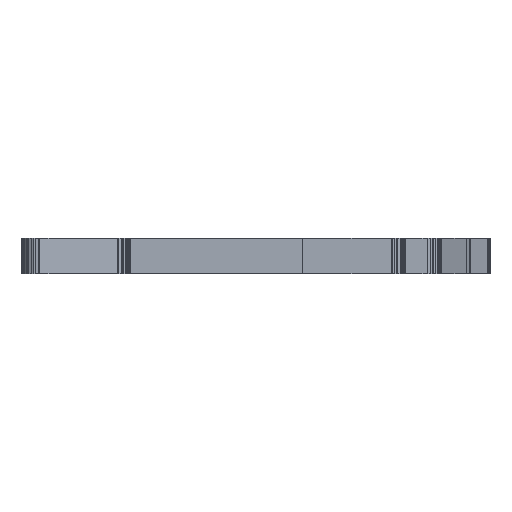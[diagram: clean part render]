
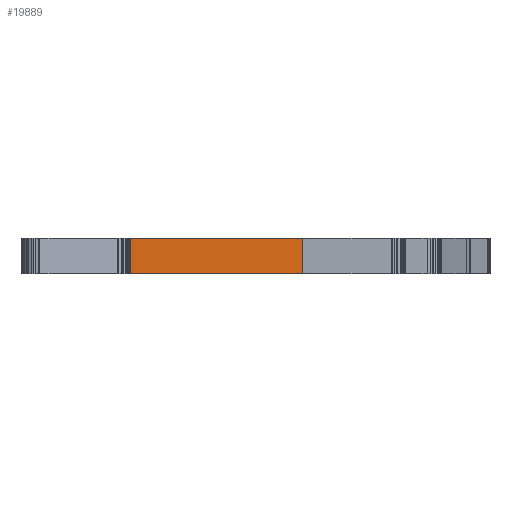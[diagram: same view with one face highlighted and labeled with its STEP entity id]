
A CAD part, left-side view. The second image highlights one B-rep face of the part: STEP entity #19889.
In plain terms, the highlighted planar face has unit normal (-1, 0, 0).
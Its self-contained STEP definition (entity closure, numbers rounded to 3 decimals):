
#72 = PLANE('',#73);
#73 = AXIS2_PLACEMENT_3D('',#74,#75,#76);
#74 = CARTESIAN_POINT('',(63.29,-47.96,3.5));
#75 = DIRECTION('',(0.,0.,1.));
#76 = DIRECTION('',(1.,0.,-0.));
#126 = PLANE('',#127);
#127 = AXIS2_PLACEMENT_3D('',#128,#129,#130);
#128 = CARTESIAN_POINT('',(63.29,-47.96,-6.6));
#129 = DIRECTION('',(0.,0.,1.));
#130 = DIRECTION('',(1.,0.,-0.));
#683 = VERTEX_POINT('',#684);
#684 = CARTESIAN_POINT('',(-4.07,-15.3,-6.6));
#698 = PLANE('',#699);
#699 = AXIS2_PLACEMENT_3D('',#700,#701,#702);
#700 = CARTESIAN_POINT('',(-6.772,-15.3,-6.6));
#701 = DIRECTION('',(0.,1.,0.));
#702 = DIRECTION('',(1.,0.,0.));
#710 = EDGE_CURVE('',#683,#711,#713,.T.);
#711 = VERTEX_POINT('',#712);
#712 = CARTESIAN_POINT('',(-4.07,-64.068,-6.6));
#713 = SURFACE_CURVE('',#714,(#718,#725),.PCURVE_S1.);
#714 = LINE('',#715,#716);
#715 = CARTESIAN_POINT('',(-4.07,-15.3,-6.6));
#716 = VECTOR('',#717,1.);
#717 = DIRECTION('',(0.,-1.,0.));
#718 = PCURVE('',#126,#719);
#719 = DEFINITIONAL_REPRESENTATION('',(#720),#724);
#720 = LINE('',#721,#722);
#721 = CARTESIAN_POINT('',(-67.36,32.66));
#722 = VECTOR('',#723,1.);
#723 = DIRECTION('',(0.,-1.));
#724 = ( GEOMETRIC_REPRESENTATION_CONTEXT(2) 
PARAMETRIC_REPRESENTATION_CONTEXT() REPRESENTATION_CONTEXT('2D SPACE',''
  ) );
#725 = PCURVE('',#726,#731);
#726 = PLANE('',#727);
#727 = AXIS2_PLACEMENT_3D('',#728,#729,#730);
#728 = CARTESIAN_POINT('',(-4.07,-15.3,-6.6));
#729 = DIRECTION('',(1.,0.,-0.));
#730 = DIRECTION('',(0.,-1.,0.));
#731 = DEFINITIONAL_REPRESENTATION('',(#732),#736);
#732 = LINE('',#733,#734);
#733 = CARTESIAN_POINT('',(0.,0.));
#734 = VECTOR('',#735,1.);
#735 = DIRECTION('',(1.,0.));
#736 = ( GEOMETRIC_REPRESENTATION_CONTEXT(2) 
PARAMETRIC_REPRESENTATION_CONTEXT() REPRESENTATION_CONTEXT('2D SPACE',''
  ) );
#754 = PLANE('',#755);
#755 = AXIS2_PLACEMENT_3D('',#756,#757,#758);
#756 = CARTESIAN_POINT('',(-4.07,-64.068,-6.6));
#757 = DIRECTION('',(0.707,-0.707,0.));
#758 = DIRECTION('',(-0.707,-0.707,0.));
#6448 = VERTEX_POINT('',#6449);
#6449 = CARTESIAN_POINT('',(-4.07,-15.3,3.5));
#6470 = EDGE_CURVE('',#6448,#6471,#6473,.T.);
#6471 = VERTEX_POINT('',#6472);
#6472 = CARTESIAN_POINT('',(-4.07,-64.068,3.5));
#6473 = SURFACE_CURVE('',#6474,(#6478,#6485),.PCURVE_S1.);
#6474 = LINE('',#6475,#6476);
#6475 = CARTESIAN_POINT('',(-4.07,-15.3,3.5));
#6476 = VECTOR('',#6477,1.);
#6477 = DIRECTION('',(0.,-1.,0.));
#6478 = PCURVE('',#72,#6479);
#6479 = DEFINITIONAL_REPRESENTATION('',(#6480),#6484);
#6480 = LINE('',#6481,#6482);
#6481 = CARTESIAN_POINT('',(-67.36,32.66));
#6482 = VECTOR('',#6483,1.);
#6483 = DIRECTION('',(0.,-1.));
#6484 = ( GEOMETRIC_REPRESENTATION_CONTEXT(2) 
PARAMETRIC_REPRESENTATION_CONTEXT() REPRESENTATION_CONTEXT('2D SPACE',''
  ) );
#6485 = PCURVE('',#726,#6486);
#6486 = DEFINITIONAL_REPRESENTATION('',(#6487),#6491);
#6487 = LINE('',#6488,#6489);
#6488 = CARTESIAN_POINT('',(0.,-10.1));
#6489 = VECTOR('',#6490,1.);
#6490 = DIRECTION('',(1.,0.));
#6491 = ( GEOMETRIC_REPRESENTATION_CONTEXT(2) 
PARAMETRIC_REPRESENTATION_CONTEXT() REPRESENTATION_CONTEXT('2D SPACE',''
  ) );
#19841 = EDGE_CURVE('',#683,#6448,#19842,.T.);
#19842 = SURFACE_CURVE('',#19843,(#19847,#19854),.PCURVE_S1.);
#19843 = LINE('',#19844,#19845);
#19844 = CARTESIAN_POINT('',(-4.07,-15.3,-6.6));
#19845 = VECTOR('',#19846,1.);
#19846 = DIRECTION('',(0.,0.,1.));
#19847 = PCURVE('',#698,#19848);
#19848 = DEFINITIONAL_REPRESENTATION('',(#19849),#19853);
#19849 = LINE('',#19850,#19851);
#19850 = CARTESIAN_POINT('',(2.702,0.));
#19851 = VECTOR('',#19852,1.);
#19852 = DIRECTION('',(0.,-1.));
#19853 = ( GEOMETRIC_REPRESENTATION_CONTEXT(2) 
PARAMETRIC_REPRESENTATION_CONTEXT() REPRESENTATION_CONTEXT('2D SPACE',''
  ) );
#19854 = PCURVE('',#726,#19855);
#19855 = DEFINITIONAL_REPRESENTATION('',(#19856),#19860);
#19856 = LINE('',#19857,#19858);
#19857 = CARTESIAN_POINT('',(0.,0.));
#19858 = VECTOR('',#19859,1.);
#19859 = DIRECTION('',(0.,-1.));
#19860 = ( GEOMETRIC_REPRESENTATION_CONTEXT(2) 
PARAMETRIC_REPRESENTATION_CONTEXT() REPRESENTATION_CONTEXT('2D SPACE',''
  ) );
#19889 = ADVANCED_FACE('',(#19890),#726,.F.);
#19890 = FACE_BOUND('',#19891,.F.);
#19891 = EDGE_LOOP('',(#19892,#19893,#19894,#19915));
#19892 = ORIENTED_EDGE('',*,*,#19841,.T.);
#19893 = ORIENTED_EDGE('',*,*,#6470,.T.);
#19894 = ORIENTED_EDGE('',*,*,#19895,.F.);
#19895 = EDGE_CURVE('',#711,#6471,#19896,.T.);
#19896 = SURFACE_CURVE('',#19897,(#19901,#19908),.PCURVE_S1.);
#19897 = LINE('',#19898,#19899);
#19898 = CARTESIAN_POINT('',(-4.07,-64.068,-6.6));
#19899 = VECTOR('',#19900,1.);
#19900 = DIRECTION('',(0.,0.,1.));
#19901 = PCURVE('',#726,#19902);
#19902 = DEFINITIONAL_REPRESENTATION('',(#19903),#19907);
#19903 = LINE('',#19904,#19905);
#19904 = CARTESIAN_POINT('',(48.768,0.));
#19905 = VECTOR('',#19906,1.);
#19906 = DIRECTION('',(0.,-1.));
#19907 = ( GEOMETRIC_REPRESENTATION_CONTEXT(2) 
PARAMETRIC_REPRESENTATION_CONTEXT() REPRESENTATION_CONTEXT('2D SPACE',''
  ) );
#19908 = PCURVE('',#754,#19909);
#19909 = DEFINITIONAL_REPRESENTATION('',(#19910),#19914);
#19910 = LINE('',#19911,#19912);
#19911 = CARTESIAN_POINT('',(0.,0.));
#19912 = VECTOR('',#19913,1.);
#19913 = DIRECTION('',(0.,-1.));
#19914 = ( GEOMETRIC_REPRESENTATION_CONTEXT(2) 
PARAMETRIC_REPRESENTATION_CONTEXT() REPRESENTATION_CONTEXT('2D SPACE',''
  ) );
#19915 = ORIENTED_EDGE('',*,*,#710,.F.);
